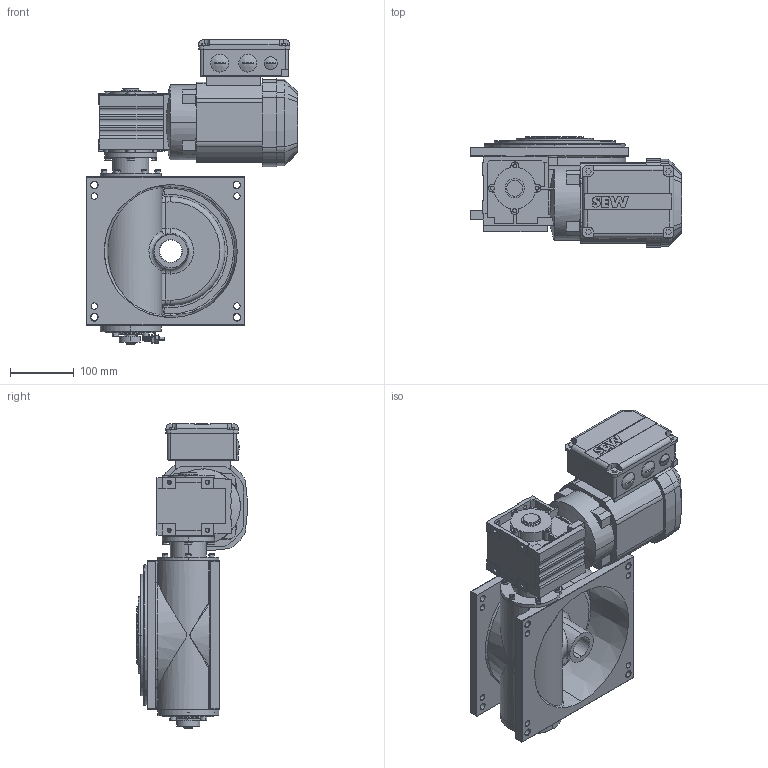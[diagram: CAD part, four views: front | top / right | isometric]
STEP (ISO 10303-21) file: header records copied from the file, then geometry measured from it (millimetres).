
FILE_DESCRIPTION (( 'STEP AP214' ), '1' );
FILE_NAME ('M190_SEW_WA20_D.STEP', '2021-01-25T15:10:18', ( '' ), ( '' ), 'SwSTEP 2.0', 'SolidWorks 2020', '' );
FILE_SCHEMA (( 'AUTOMOTIVE_DESIGN' ));
Length unit declared in the file: millimetre
Products named in the file (1): M190_SEW_WA20_D
Bounding box: 330.5 x 172.74 x 476.05 mm (x, y, z)
Surface area: 605633.5 mm2 (no closed solid volume)
Topology: 0 solids, 54 shells, 1259 faces, 3823 edges, 2507 vertices
Faces by surface type: plane 527, cylinder 415, cone 152, bspline 92, torus 63, sphere 10
Entity records: 65697 total; most frequent: CARTESIAN_POINT 18339, DIRECTION 7000, ORIENTED_EDGE 6577, EDGE_CURVE 3788, VERTEX_POINT 2507, AXIS2_PLACEMENT_3D 2498, VECTOR 2004, LINE 2004
